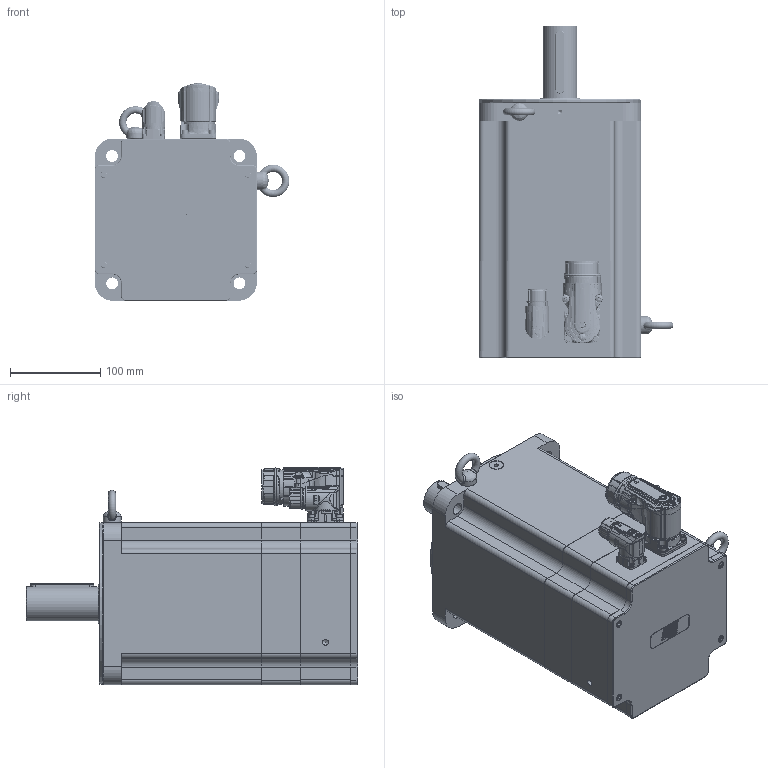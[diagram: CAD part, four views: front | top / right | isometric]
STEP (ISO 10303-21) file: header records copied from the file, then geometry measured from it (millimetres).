
FILE_DESCRIPTION(/* description */ ('Unknown'),/* implementation_level */ '2;1');
FILE_NAME(/* name */ 'TC4-180.7D.X X.X.3.XX.1.X.G3.00.00 Q0B809',/* time_stamp */ '2026-03-10T15:04:13+01:00',/* author */ ('Unknown'),/* organization */ ('Unknown'),/* preprocessor_version */ 'ST-DEVELOPER v19.4',/* originating_system */ 'Solid Edge',/* authorisation */ 'Unknown');
FILE_SCHEMA (('AUTOMOTIVE_DESIGN {1 0 10303 214 3 1 1}'));
Products named in the file (17): Q0B809 7D FRENO VUOTO; 005256003057; 003103040231; 003155002231; Coperchio campana TC4-180; 003003199971; 005113001040; 005119001104; 005911000205; 005911000185; 005911000479; 005321000010; 005911000180; 003251040631; 007117000452; Corpo TC4-180 7D; 007117000454
Assembly tree (33 placements, depth 2):
  Q0B809 7D FRENO VUOTO
    005256003057
    003103040231
    003155002231
    Coperchio campana TC4-180
    003003199971
    005113001040
    005119001104
    005911000205  x4
    005911000185  x4
    005911000479  x8
    005321000010  x2
    005911000180  x4
    003251040631
    007117000452
    Corpo TC4-180 7D
    007117000454
Bounding box: 215.97 x 368.5 x 241.45 mm (x, y, z)
Volume: 3703221.8 mm3; surface area: 877820.3 mm2
Topology: 34 solids, 61 shells, 3637 faces, 9370 edges, 5907 vertices
Faces by surface type: plane 1300, cylinder 879, bspline 636, cone 376, torus 312, sphere 134
Full cylindrical faces by diameter (mm): 0.5 x1, 1 x17, 1.2 x17, 2 x4, 2.013 x8, 2.5 x4, 3 x5, 3.242 x16, 3.6 x5, 4 x12, 4.134 x16, 4.2 x8, 4.5 x9, 4.7 x4, 4.917 x8, 5 x8, 5.4 x1, 5.5 x9, 5.9 x1, 6.647 x14, 7 x10, 8 x11, 9 x4, 10 x5, 10.106 x2, 14 x4, 15.2 x1, 16 x1, 17.4 x2, 18 x1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
Entity records: 159992 total; most frequent: CARTESIAN_POINT 63687, ORIENTED_EDGE 15730, DIRECTION 14192, EDGE_CURVE 8073, AXIS2_PLACEMENT_3D 5551, VERTEX_POINT 5408, FACE_BOUND 4238, EDGE_LOOP 4208
